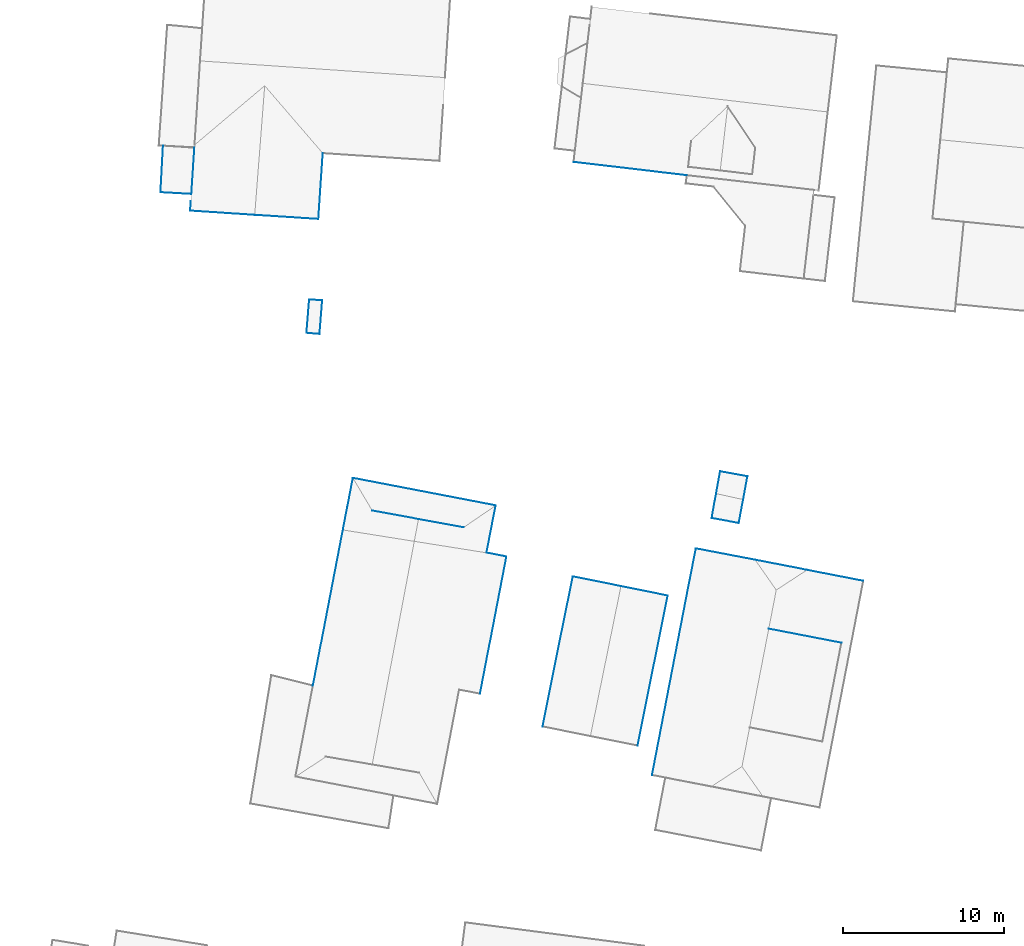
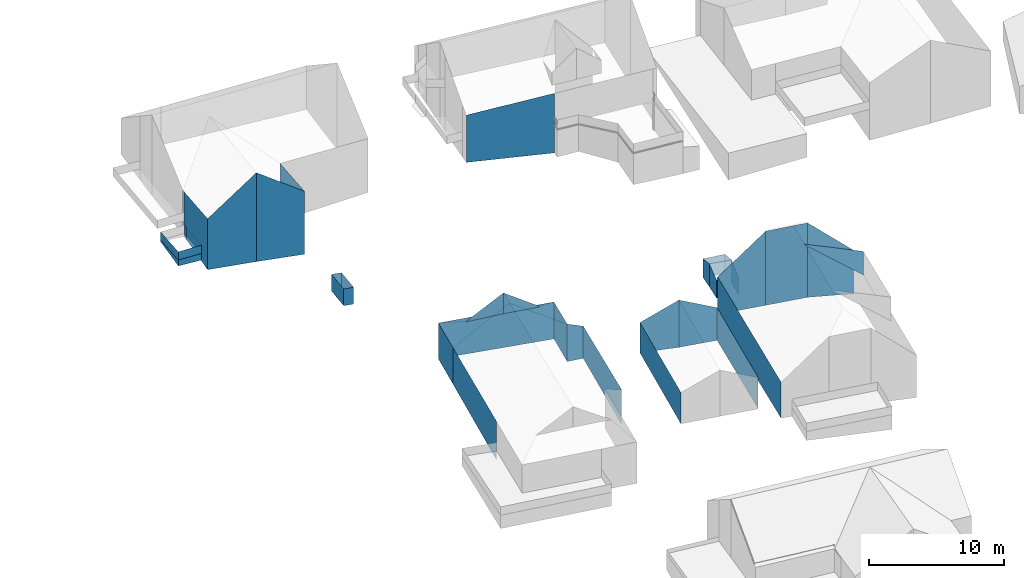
# Not in any storey, part 35 of 57: 41 walls.
"""IFC2X3 building model written with IfcOpenShell, lengths in metres."""

import ifcopenshell
import ifcopenshell.guid

model = None  # the IFC model being written
_history = None  # IfcOwnerHistory: only IFC2X3 demands one
_inside = {}  # id of a spatial element -> (the spatial element, [elements in it])
_under = {}  # id of a project, library or spatial element -> (it, [spatial elements below it])
_declared = {}  # id of a project -> (the project, [libraries it declares])
_typed = {}  # id of a type object -> (the type object, [elements of that type])
_made_of = {}  # id of a material, layer set ... -> (it, [elements and type objects made of it])


def new_model(schema):
    """Start an empty IFC model of exactly this schema.

    Asked for "IFC4X3", IfcOpenShell would pick the latest addendum, in which some entities
    have other attributes; the version numbers below select the first issue.
    IFC2X3 requires an IfcOwnerHistory on every rooted entity: one is made here for all.
    """
    global model, _history
    if schema == "IFC4X3":
        model = ifcopenshell.file(schema_version=(4, 3, 0, 0))
    else:
        model = ifcopenshell.file(schema=schema)
    _inside.clear()
    _under.clear()
    _declared.clear()
    _typed.clear()
    _made_of.clear()
    _history = None
    if model.schema == "IFC2X3":
        org = make("IfcOrganization", Name="unknown")
        user = make(
            "IfcPersonAndOrganization",
            ThePerson=make("IfcPerson", FamilyName="unknown"),
            TheOrganization=org,
        )
        app = make(
            "IfcApplication",
            ApplicationDeveloper=org,
            Version="unknown",
            ApplicationFullName="unknown",
            ApplicationIdentifier="unknown",
        )
        _history = make(
            "IfcOwnerHistory",
            OwningUser=user,
            OwningApplication=app,
            ChangeAction="ADDED",
            CreationDate=0,
        )
    return model


def make(cls, **values):
    """One entity of the class cls with the attributes given. An attribute that is None is left unset."""
    return model.create_entity(
        cls, **{name: value for name, value in values.items() if value is not None}
    )


def entity(cls, *values):
    """Any entity or typed value of the class cls, its attributes in the order of the schema. None: left unset."""
    e = model.create_entity(cls)
    for i, value in enumerate(values):
        if value is not None:
            e[i] = value
    return e


def rooted(cls, **values):
    """An entity with a GlobalId (a new one), such as an element, a storey or a relation."""
    return make(cls, GlobalId=ifcopenshell.guid.new(), OwnerHistory=_history, **values)


def si_unit(unit_type, name, prefix=None):
    """IfcSIUnit, for example si_unit("LENGTHUNIT", "METRE", prefix="MILLI")."""
    return make("IfcSIUnit", UnitType=unit_type, Prefix=prefix, Name=name)


def converted_unit(unit_type, name, factor, base, dimensions=None, offset=None):
    """IfcConversionBasedUnit, such as the inch: factor (a typed value) times the base unit."""
    return make(
        "IfcConversionBasedUnit"
        if offset is None
        else "IfcConversionBasedUnitWithOffset",
        ConversionOffset=offset,
        Dimensions=None
        if dimensions is None
        else entity("IfcDimensionalExponents", *dimensions),
        UnitType=unit_type,
        Name=name,
        ConversionFactor=make(
            "IfcMeasureWithUnit", ValueComponent=factor, UnitComponent=base
        ),
    )


def assignment(units):
    """IfcUnitAssignment: the units of a project."""
    return None if units is None else make("IfcUnitAssignment", Units=units)


def point(xyz):
    """IfcCartesianPoint."""
    return None if xyz is None else make("IfcCartesianPoint", Coordinates=xyz)


def direction(xyz):
    """IfcDirection."""
    return None if xyz is None else make("IfcDirection", DirectionRatios=xyz)


def frame(location, z_axis=None, x_axis=None):
    """IfcAxis2Placement3D, a coordinate frame: its origin and axes. An axis left out is left unset."""
    return make(
        "IfcAxis2Placement3D",
        Location=point(location),
        Axis=direction(z_axis),
        RefDirection=direction(x_axis),
    )


def origin():
    """The frame at (0, 0, 0) with its axes left unset."""
    return frame((0.0, 0.0, 0.0))


def place(relative_to, where):
    """IfcLocalPlacement: puts the frame where relative to a parent placement (None: the world)."""
    return make(
        "IfcLocalPlacement", PlacementRelTo=relative_to, RelativePlacement=where
    )


def context(
    kind, dimensions, precision=None, world=None, true_north=None, identifier=None
):
    """IfcGeometricRepresentationContext, for example the 3D "Model" context."""
    return make(
        "IfcGeometricRepresentationContext",
        ContextIdentifier=identifier,
        ContextType=kind,
        CoordinateSpaceDimension=dimensions,
        Precision=precision,
        WorldCoordinateSystem=world,
        TrueNorth=true_north,
    )


def subcontext(parent, identifier, kind, view, scale=None):
    """IfcGeometricRepresentationSubContext, for example "Body" below "Model"."""
    return make(
        "IfcGeometricRepresentationSubContext",
        ContextIdentifier=identifier,
        ContextType=kind,
        ParentContext=parent,
        TargetScale=scale,
        TargetView=view,
    )


def project(units=None, contexts=None):
    """IfcProject with its units and contexts."""
    return rooted(
        "IfcProject",
        Name="project",
        RepresentationContexts=contexts,
        UnitsInContext=assignment(units),
    )


def spatial(cls, under=None, at=None, **own):
    """A site, building, storey or space (cls), placed at a placement, below another one or the project."""
    s = rooted(cls, ObjectPlacement=at, **own)
    if under is not None:
        _under.setdefault(under.id(), (under, []))[1].append(s)
    return s


def faces_of(points, faces, orient=None, outer=None):
    """IfcFace entities. A face is a list of loops; a loop is a list of indices into points, from 0.

    orient and outer hold one flag for each loop. By default every Orientation is true, the
    first loop of a face is its IfcFaceOuterBound and the others are IfcFaceBound.
    """
    made = []
    for i, loops in enumerate(faces):
        bounds = []
        for j, loop in enumerate(loops):
            is_outer = j == 0 if outer is None else outer[i][j]
            bounds.append(
                make(
                    "IfcFaceOuterBound" if is_outer else "IfcFaceBound",
                    Bound=make("IfcPolyLoop", Polygon=[points[k] for k in loop]),
                    Orientation=True if orient is None else orient[i][j],
                )
            )
        made.append(make("IfcFace", Bounds=bounds))
    return made


def face_set(faces, orient=None, outer=None):
    """The faces of one IfcConnectedFaceSet. surface_model builds it on its shared points."""
    return ("IfcConnectedFaceSet", faces, orient, outer)


def surface_model(cls, points, shells):
    """IfcFaceBasedSurfaceModel or IfcShellBasedSurfaceModel (cls): surfaces that need not close."""
    shared = [point(p) for p in points]
    made = [make(c, CfsFaces=faces_of(shared, fs, o, b)) for c, fs, o, b in shells]
    if cls == "IfcFaceBasedSurfaceModel":
        return make(cls, FbsmFaces=made)
    return make(cls, SbsmBoundary=made)


def shape(context_of_items, identifier, shape_type, items):
    """IfcShapeRepresentation: the items that make up one representation, for example the "Body"."""
    return make(
        "IfcShapeRepresentation",
        ContextOfItems=context_of_items,
        RepresentationIdentifier=identifier,
        RepresentationType=shape_type,
        Items=items,
    )


def made_of(thing, what):
    """Note that an element or type object is made of a material, layer set ...; save() writes the relation."""
    if what is not None:
        _made_of.setdefault(what.id(), (what, []))[1].append(thing)
    return thing


def element(
    cls,
    number,
    at=None,
    inside=None,
    cuts=None,
    type_object=None,
    material=None,
    context=None,
    identifier="Body",
    shape_type=None,
    held_by="IfcProductDefinitionShape",
    body=None,
    shapes=None,
    **own,
):
    """One element of the class cls, such as IfcWall. Its Tag is "e" and its number.

    at: its placement. inside: the storey or other place that contains it. cuts: it is an
    opening in that element (IfcRelVoidsElement). A single representation is given by context,
    identifier, shape_type and body (its items); several are given by shapes. held_by: the class
    of the entity that holds the representations. save() writes the other relations.
    """
    e = rooted(cls, Tag="e%d" % number, ObjectPlacement=at, **own)
    if body is not None:
        shapes = [shape(context, identifier, shape_type, body)]
    if shapes is not None:
        e.Representation = make(held_by, Representations=shapes)
    if inside is not None:
        _inside.setdefault(inside.id(), (inside, []))[1].append(e)
    if cuts is not None:
        rooted(
            "IfcRelVoidsElement", RelatingBuildingElement=cuts, RelatedOpeningElement=e
        )
    if type_object is not None:
        _typed.setdefault(type_object.id(), (type_object, []))[1].append(e)
    return made_of(e, material)


def aggregate(whole, parts):
    """IfcRelAggregates: a whole, such as a stair, and the parts it consists of."""
    return rooted("IfcRelAggregates", RelatingObject=whole, RelatedObjects=parts)


def save(model, path):
    """Write the relations noted so far, then the file.

    IfcRelAggregates (storeys below a building ...), IfcRelContainedInSpatialStructure (elements
    in a storey), IfcRelDefinesByType, IfcRelAssociatesMaterial and IfcRelDeclares: one each for
    every whole, place, type object, material and project.
    """
    for whole, parts in _under.values():
        aggregate(whole, parts)
    for where, things in _inside.values():
        rooted(
            "IfcRelContainedInSpatialStructure",
            RelatedElements=things,
            RelatingStructure=where,
        )
    for kind, things in _typed.values():
        rooted("IfcRelDefinesByType", RelatedObjects=things, RelatingType=kind)
    for what, things in _made_of.values():
        rooted("IfcRelAssociatesMaterial", RelatedObjects=things, RelatingMaterial=what)
    for by, libraries in _declared.values():
        rooted("IfcRelDeclares", RelatingContext=by, RelatedDefinitions=libraries)
    model.write(path)


model = new_model("IFC2X3")

# Units and contexts
model_context = context("Model", 3, precision=1e-05, world=origin())
body_context = subcontext(model_context, "Body", "Model", "MODEL_VIEW")
ifc_project = project(units=[converted_unit("PLANEANGLEUNIT", "DEGREE", entity("IfcRatioMeasure", 0.0174532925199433), si_unit("PLANEANGLEUNIT", "RADIAN"), dimensions=[0, 0, 0, 0, 0, 0, 0]), si_unit("AREAUNIT", "SQUARE_METRE"), si_unit("LENGTHUNIT", "METRE")], contexts=[model_context])

# Site, building
site_placement = place(None, origin())
site = spatial("IfcSite", under=ifc_project, at=site_placement, Name="_site", CompositionType="ELEMENT")
building_1_placement = place(site_placement, origin())
building_1 = spatial("IfcBuilding", under=site, at=building_1_placement, Name="_building", CompositionType="ELEMENT")

# Walls
wall_1_placement = place(building_1_placement, origin())
element("IfcWall", 1, at=wall_1_placement, inside=building_1, Name="Wall", context=body_context, shape_type="SurfaceModel", body=[
    surface_model("IfcFaceBasedSurfaceModel", [(246.15, 128.743, 111.66), (245.886, 127.308, 112.12), (245.886, 127.308, 110.025), (246.15, 128.743, 109.906)], [face_set([[[0, 1, 2, 3]]])]),
])
wall_2_placement = place(building_1_placement, origin())
element("IfcWall", 2, at=wall_2_placement, inside=building_1, Name="Wall", context=body_context, shape_type="SurfaceModel", body=[
    surface_model("IfcFaceBasedSurfaceModel", [(244.456, 129.053, 111.66), (246.15, 128.743, 111.66), (246.15, 128.743, 109.906), (244.456, 129.053, 109.946)], [face_set([[[0, 1, 2, 3]]])]),
])
wall_3_placement = place(building_1_placement, origin())
element("IfcWall", 3, at=wall_3_placement, inside=building_1, Name="Wall", context=body_context, shape_type="SurfaceModel", body=[
    surface_model("IfcFaceBasedSurfaceModel", [(244.204, 127.677, 112.12), (244.456, 129.053, 111.66), (244.456, 129.053, 109.946), (244.204, 127.677, 110.04)], [face_set([[[0, 1, 2, 3]]])]),
])
wall_4_placement = place(building_1_placement, origin())
element("IfcWall", 4, at=wall_4_placement, inside=building_1, Name="Wall", context=body_context, shape_type="SurfaceModel", body=[
    surface_model("IfcFaceBasedSurfaceModel", [(243.928, 126.153, 111.66), (244.204, 127.677, 112.12), (244.204, 127.677, 110.04), (243.928, 126.153, 110.044)], [face_set([[[0, 1, 2, 3]]])]),
])
wall_5_placement = place(building_1_placement, origin())
element("IfcWall", 5, at=wall_5_placement, inside=building_1, Name="Wall", context=body_context, shape_type="SurfaceModel", body=[
    surface_model("IfcFaceBasedSurfaceModel", [(245.612, 125.843, 111.66), (243.928, 126.153, 111.66), (243.928, 126.153, 110.044), (245.612, 125.843, 110.029)], [face_set([[[0, 1, 2, 3]]])]),
])
wall_6_placement = place(building_1_placement, origin())
element("IfcWall", 6, at=wall_6_placement, inside=building_1, Name="Wall", context=body_context, shape_type="SurfaceModel", body=[
    surface_model("IfcFaceBasedSurfaceModel", [(245.886, 127.308, 112.12), (245.612, 125.843, 111.66), (245.612, 125.843, 110.029), (245.886, 127.308, 110.025)], [face_set([[[0, 1, 2, 3]]])]),
])

# Building
building_2_placement = place(site_placement, origin())
building_2 = spatial("IfcBuilding", under=site, at=building_2_placement, Name="_building", CompositionType="ELEMENT")

# Walls
wall_7_placement = place(building_2_placement, origin())
element("IfcWall", 7, at=wall_7_placement, inside=building_2, Name="Wall", context=body_context, shape_type="SurfaceModel", body=[
    surface_model("IfcFaceBasedSurfaceModel", [(246.629, 123.558, 116.72), (249.846, 122.932, 116.72), (249.846, 122.932, 110.0), (246.629, 123.558, 110.022)], [face_set([[[0, 1, 2, 3]]])]),
])
wall_8_placement = place(building_2_placement, origin())
element("IfcWall", 8, at=wall_8_placement, inside=building_2, Name="Wall", context=body_context, shape_type="SurfaceModel", body=[
    surface_model("IfcFaceBasedSurfaceModel", [(240.222, 110.18, 113.45), (242.943, 124.265, 113.45), (242.943, 124.265, 110.07), (240.222, 110.18, 110.194)], [face_set([[[0, 1, 2, 3]]])]),
])
wall_9_placement = place(building_2_placement, origin())
element("IfcWall", 9, at=wall_9_placement, inside=building_2, Name="Wall", context=body_context, shape_type="SurfaceModel", body=[
    surface_model("IfcFaceBasedSurfaceModel", [(247.469, 119.276, 117.86), (251.992, 118.399, 116.15), (251.992, 118.399, 114.013), (247.469, 119.276, 117.81)], [face_set([[[0, 1, 2, 3]]])]),
])
wall_10_placement = place(building_2_placement, origin())
element("IfcWall", 10, at=wall_10_placement, inside=building_2, Name="Wall", context=body_context, shape_type="SurfaceModel", body=[
    surface_model("IfcFaceBasedSurfaceModel", [(242.943, 124.265, 113.45), (246.629, 123.558, 116.72), (246.629, 123.558, 110.022), (242.943, 124.265, 110.07)], [face_set([[[0, 1, 2, 3]]])]),
])
wall_11_placement = place(building_2_placement, origin())
element("IfcWall", 11, at=wall_11_placement, inside=building_2, Name="Wall", context=body_context, shape_type="SurfaceModel", body=[
    surface_model("IfcFaceBasedSurfaceModel", [(249.846, 122.932, 116.72), (253.353, 122.25, 113.45), (253.353, 122.25, 109.508), (249.846, 122.932, 110.0)], [face_set([[[0, 1, 2, 3]]])]),
])

# Building
building_3_placement = place(site_placement, origin())
building_3 = spatial("IfcBuilding", under=site, at=building_3_placement, Name="_building", CompositionType="ELEMENT")

# Wall
wall_12_placement = place(building_3_placement, origin())
element("IfcWall", 12, at=wall_12_placement, inside=building_3, Name="Wall", context=body_context, shape_type="SurfaceModel", body=[
    surface_model("IfcFaceBasedSurfaceModel", [(242.386, 147.452, 116.15), (235.35, 148.278, 116.15), (235.35, 148.278, 111.881), (242.386, 147.452, 110.779)], [face_set([[[0, 1, 2, 3]]])]),
])

# Building
building_4_placement = place(site_placement, origin())
building_4 = spatial("IfcBuilding", under=site, at=building_4_placement, Name="_building", CompositionType="ELEMENT")

# Walls
wall_13_placement = place(building_4_placement, origin())
element("IfcWall", 13, at=wall_13_placement, inside=building_4, Name="Wall", context=body_context, shape_type="SurfaceModel", body=[
    surface_model("IfcFaceBasedSurfaceModel", [(231.174, 123.76, 113.44), (229.534, 115.233, 113.44), (229.534, 115.233, 110.276), (231.174, 123.76, 110.531)], [face_set([[[0, 1, 2, 3]]])]),
])
wall_14_placement = place(building_4_placement, origin())
element("IfcWall", 14, at=wall_14_placement, inside=building_4, Name="Wall", context=body_context, shape_type="SurfaceModel", body=[
    surface_model("IfcFaceBasedSurfaceModel", [(219.152, 115.735, 113.905), (221.017, 125.419, 114.05), (221.017, 125.419, 110.757), (219.152, 115.735, 110.419)], [face_set([[[0, 1, 2, 3]]])]),
])
wall_15_placement = place(building_4_placement, origin())
element("IfcWall", 15, at=wall_15_placement, inside=building_4, Name="Wall", context=body_context, shape_type="SurfaceModel", body=[
    surface_model("IfcFaceBasedSurfaceModel", [(229.939, 123.999, 113.91), (231.174, 123.76, 113.44), (231.174, 123.76, 110.531), (229.939, 123.999, 110.529)], [face_set([[[0, 1, 2, 3]]])]),
])

# Building
building_5_placement = place(site_placement, origin())
building_5 = spatial("IfcBuilding", under=site, at=building_5_placement, Name="_building", CompositionType="ELEMENT")

# Walls
wall_16_placement = place(building_5_placement, origin())
element("IfcWall", 16, at=wall_16_placement, inside=building_5, Name="Wall", context=body_context, shape_type="SurfaceModel", body=[
    surface_model("IfcFaceBasedSurfaceModel", [(225.705, 126.089, 116.94), (228.505, 125.574, 115.06), (228.505, 125.574, 115.01), (225.705, 126.089, 115.06)], [face_set([[[0, 1, 2, 3]]])]),
])
wall_17_placement = place(building_5_placement, origin())
element("IfcWall", 17, at=wall_17_placement, inside=building_5, Name="Wall", context=body_context, shape_type="SurfaceModel", body=[
    surface_model("IfcFaceBasedSurfaceModel", [(230.508, 126.938, 113.93), (229.939, 123.999, 113.91), (229.939, 123.999, 110.529), (230.508, 126.938, 110.589)], [face_set([[[0, 1, 2, 3]]])]),
])
wall_18_placement = place(building_5_placement, origin())
element("IfcWall", 18, at=wall_18_placement, inside=building_5, Name="Wall", context=body_context, shape_type="SurfaceModel", body=[
    surface_model("IfcFaceBasedSurfaceModel", [(221.017, 125.419, 114.05), (221.633, 128.646, 114.1), (221.633, 128.646, 110.866), (221.017, 125.419, 110.757)], [face_set([[[0, 1, 2, 3]]])]),
])
wall_19_placement = place(building_5_placement, origin())
element("IfcWall", 19, at=wall_19_placement, inside=building_5, Name="Wall", context=body_context, shape_type="SurfaceModel", body=[
    surface_model("IfcFaceBasedSurfaceModel", [(222.836, 126.617, 115.06), (225.705, 126.089, 116.94), (225.705, 126.089, 115.06), (222.836, 126.617, 115.01)], [face_set([[[0, 1, 2, 3]]])]),
])
wall_20_placement = place(building_5_placement, origin())
element("IfcWall", 20, at=wall_20_placement, inside=building_5, Name="Wall", context=body_context, shape_type="SurfaceModel", body=[
    surface_model("IfcFaceBasedSurfaceModel", [(221.633, 128.646, 114.1), (230.508, 126.938, 113.93), (230.508, 126.938, 110.589), (221.633, 128.646, 110.866)], [face_set([[[0, 1, 2, 3]]])]),
])

# Building
building_6_placement = place(site_placement, origin())
building_6 = spatial("IfcBuilding", under=site, at=building_6_placement, Name="_building", CompositionType="ELEMENT")

# Walls
wall_21_placement = place(building_6_placement, origin())
element("IfcWall", 21, at=wall_21_placement, inside=building_6, Name="Wall", context=body_context, shape_type="SurfaceModel", body=[
    surface_model("IfcFaceBasedSurfaceModel", [(219.561, 137.59, 112.63), (218.752, 137.659, 112.71), (218.752, 137.659, 111.2), (219.561, 137.59, 111.111)], [face_set([[[0, 1, 2, 3]]])]),
])
wall_22_placement = place(building_6_placement, origin())
element("IfcWall", 22, at=wall_22_placement, inside=building_6, Name="Wall", context=body_context, shape_type="SurfaceModel", body=[
    surface_model("IfcFaceBasedSurfaceModel", [(219.73, 139.678, 112.62), (219.561, 137.59, 112.63), (219.561, 137.59, 111.111), (219.73, 139.678, 111.125)], [face_set([[[0, 1, 2, 3]]])]),
])
wall_23_placement = place(building_6_placement, origin())
element("IfcWall", 23, at=wall_23_placement, inside=building_6, Name="Wall", context=body_context, shape_type="SurfaceModel", body=[
    surface_model("IfcFaceBasedSurfaceModel", [(218.92, 139.736, 112.71), (219.73, 139.678, 112.62), (219.73, 139.678, 111.125), (218.92, 139.736, 111.201)], [face_set([[[0, 1, 2, 3]]])]),
])
wall_24_placement = place(building_6_placement, origin())
element("IfcWall", 24, at=wall_24_placement, inside=building_6, Name="Wall", context=body_context, shape_type="SurfaceModel", body=[
    surface_model("IfcFaceBasedSurfaceModel", [(218.752, 137.659, 112.71), (218.92, 139.736, 112.71), (218.92, 139.736, 111.201), (218.752, 137.659, 111.2)], [face_set([[[0, 1, 2, 3]]])]),
])

# Building
building_7_placement = place(site_placement, origin())
building_7 = spatial("IfcBuilding", under=site, at=building_7_placement, Name="_building", CompositionType="ELEMENT")

# Walls
wall_25_placement = place(building_7_placement, origin())
element("IfcWall", 25, at=wall_25_placement, inside=building_7, Name="Wall", context=body_context, shape_type="SurfaceModel", body=[
    surface_model("IfcFaceBasedSurfaceModel", [(235.298, 122.523, 113.07), (238.286, 121.923, 114.42), (238.286, 121.923, 110.145), (235.298, 122.523, 110.339)], [face_set([[[0, 1, 2, 3]]])]),
])
wall_26_placement = place(building_7_placement, origin())
element("IfcWall", 26, at=wall_26_placement, inside=building_7, Name="Wall", context=body_context, shape_type="SurfaceModel", body=[
    surface_model("IfcFaceBasedSurfaceModel", [(233.419, 113.201, 113.07), (235.298, 122.523, 113.07), (235.298, 122.523, 110.339), (233.419, 113.201, 110.234)], [face_set([[[0, 1, 2, 3]]])]),
])
wall_27_placement = place(building_7_placement, origin())
element("IfcWall", 27, at=wall_27_placement, inside=building_7, Name="Wall", context=body_context, shape_type="SurfaceModel", body=[
    surface_model("IfcFaceBasedSurfaceModel", [(241.194, 121.334, 113.07), (239.324, 112.012, 113.07), (239.324, 112.012, 110.241), (241.194, 121.334, 110.118)], [face_set([[[0, 1, 2, 3]]])]),
])
wall_28_placement = place(building_7_placement, origin())
element("IfcWall", 28, at=wall_28_placement, inside=building_7, Name="Wall", context=body_context, shape_type="SurfaceModel", body=[
    surface_model("IfcFaceBasedSurfaceModel", [(238.286, 121.923, 114.42), (241.194, 121.334, 113.07), (241.194, 121.334, 110.118), (238.286, 121.923, 110.145)], [face_set([[[0, 1, 2, 3]]])]),
])

# Building
building_8_placement = place(site_placement, origin())
building_8 = spatial("IfcBuilding", under=site, at=building_8_placement, Name="_building", CompositionType="ELEMENT")

# Walls
wall_29_placement = place(building_8_placement, origin())
element("IfcWall", 29, at=wall_29_placement, inside=building_8, Name="Wall", context=body_context, shape_type="SurfaceModel", body=[
    surface_model("IfcFaceBasedSurfaceModel", [(211.525, 145.253, 116.98), (211.789, 149.179, 116.922), (211.789, 149.179, 112.914), (211.525, 145.253, 112.378)], [face_set([[[0, 1, 2, 3]]])]),
])
wall_30_placement = place(building_8_placement, origin())
element("IfcWall", 30, at=wall_30_placement, inside=building_8, Name="Wall", context=body_context, shape_type="SurfaceModel", body=[
    surface_model("IfcFaceBasedSurfaceModel", [(219.488, 144.736, 116.98), (215.531, 144.989, 119.89), (215.531, 144.989, 111.861), (219.488, 144.736, 111.299)], [face_set([[[0, 1, 2, 3]]])]),
])
wall_31_placement = place(building_8_placement, origin())
element("IfcWall", 31, at=wall_31_placement, inside=building_8, Name="Wall", context=body_context, shape_type="SurfaceModel", body=[
    surface_model("IfcFaceBasedSurfaceModel", [(219.764, 148.822, 116.92), (219.488, 144.736, 116.98), (219.488, 144.736, 111.299), (219.764, 148.822, 111.717)], [face_set([[[0, 1, 2, 3]]])]),
])
wall_32_placement = place(building_8_placement, origin())
element("IfcWall", 32, at=wall_32_placement, inside=building_8, Name="Wall", context=body_context, shape_type="SurfaceModel", body=[
    surface_model("IfcFaceBasedSurfaceModel", [(215.531, 144.989, 119.89), (211.525, 145.253, 116.98), (211.525, 145.253, 112.378), (215.531, 144.989, 111.861)], [face_set([[[0, 1, 2, 3]]])]),
])
wall_33_placement = place(building_8_placement, origin())
element("IfcWall", 33, at=wall_33_placement, inside=building_8, Name="Wall", context=body_context, shape_type="SurfaceModel", body=[
    surface_model("IfcFaceBasedSurfaceModel", [(211.599, 146.292, 113.19), (209.681, 146.397, 113.19), (209.681, 146.397, 112.673), (211.599, 146.292, 112.588)], [face_set([[[0, 1, 2, 3]]])]),
])
wall_34_placement = place(building_8_placement, origin())
element("IfcWall", 34, at=wall_34_placement, inside=building_8, Name="Wall", context=body_context, shape_type="SurfaceModel", body=[
    surface_model("IfcFaceBasedSurfaceModel", [(209.681, 146.397, 113.19), (209.838, 149.285, 113.19), (209.838, 149.285, 113.05), (209.681, 146.397, 112.673)], [face_set([[[0, 1, 2, 3]]])]),
])
wall_35_placement = place(building_8_placement, origin())
element("IfcWall", 35, at=wall_35_placement, inside=building_8, Name="Wall", context=body_context, shape_type="SurfaceModel", body=[
    surface_model("IfcFaceBasedSurfaceModel", [(211.787, 149.159, 113.19), (211.599, 146.292, 113.19), (211.599, 146.292, 112.588), (211.787, 149.159, 112.911)], [face_set([[[0, 1, 2, 3]]])]),
])
wall_36_placement = place(building_8_placement, origin())
element("IfcWall", 36, at=wall_36_placement, inside=building_8, Name="Wall", context=body_context, shape_type="SurfaceModel", body=[
    surface_model("IfcFaceBasedSurfaceModel", [(209.681, 146.397, 113.19), (209.838, 149.285, 113.19), (209.838, 149.285, 113.94), (209.681, 146.397, 113.94)], [face_set([[[0, 1, 2, 3]]])]),
])
wall_37_placement = place(building_8_placement, origin())
element("IfcWall", 37, at=wall_37_placement, inside=building_8, Name="Wall", context=body_context, shape_type="SurfaceModel", body=[
    surface_model("IfcFaceBasedSurfaceModel", [(211.599, 146.292, 113.19), (209.681, 146.397, 113.19), (209.681, 146.397, 113.94), (211.599, 146.292, 113.94)], [face_set([[[0, 1, 2, 3]]])]),
])
wall_38_placement = place(building_8_placement, origin())
element("IfcWall", 38, at=wall_38_placement, inside=building_8, Name="Wall", context=body_context, shape_type="SurfaceModel", body=[
    surface_model("IfcFaceBasedSurfaceModel", [(211.787, 149.159, 113.19), (211.599, 146.292, 113.19), (211.599, 146.292, 113.94), (211.787, 149.159, 113.94)], [face_set([[[0, 1, 2, 3]]])]),
])
wall_39_placement = place(building_8_placement, origin())
element("IfcWall", 39, at=wall_39_placement, inside=building_8, Name="Wall", context=body_context, shape_type="SurfaceModel", body=[
    surface_model("IfcFaceBasedSurfaceModel", [(209.681, 146.397, 113.19), (209.838, 149.285, 113.19), (209.838, 149.285, 113.94), (209.681, 146.397, 113.94)], [face_set([[[0, 1, 2, 3]]])]),
])
wall_40_placement = place(building_8_placement, origin())
element("IfcWall", 40, at=wall_40_placement, inside=building_8, Name="Wall", context=body_context, shape_type="SurfaceModel", body=[
    surface_model("IfcFaceBasedSurfaceModel", [(211.599, 146.292, 113.19), (209.681, 146.397, 113.19), (209.681, 146.397, 113.94), (211.599, 146.292, 113.94)], [face_set([[[0, 1, 2, 3]]])]),
])
wall_41_placement = place(building_8_placement, origin())
element("IfcWall", 41, at=wall_41_placement, inside=building_8, Name="Wall", context=body_context, shape_type="SurfaceModel", body=[
    surface_model("IfcFaceBasedSurfaceModel", [(211.787, 149.159, 113.19), (211.599, 146.292, 113.19), (211.599, 146.292, 113.94), (211.787, 149.159, 113.94)], [face_set([[[0, 1, 2, 3]]])]),
])

save(model, "model.ifc")
